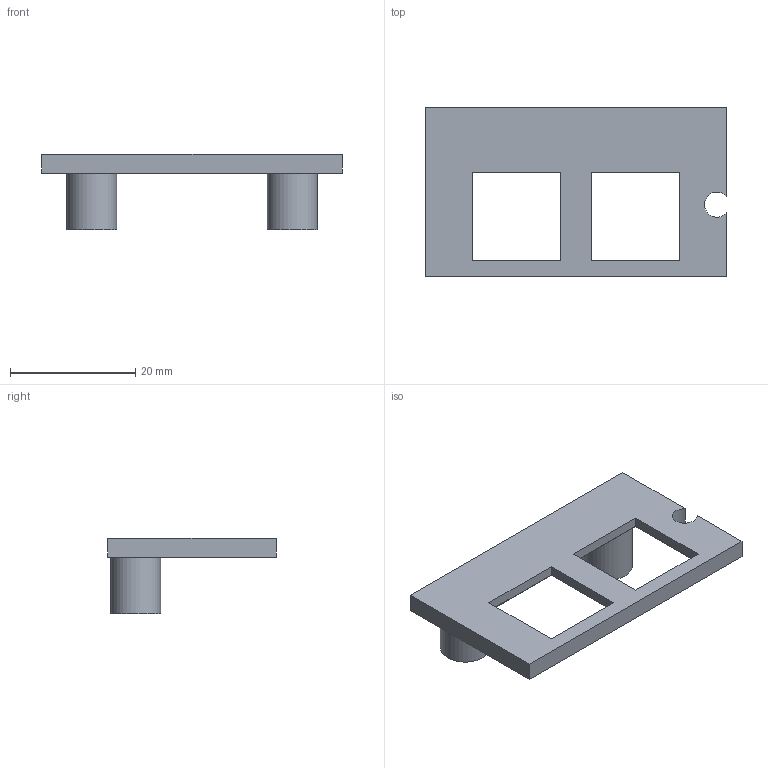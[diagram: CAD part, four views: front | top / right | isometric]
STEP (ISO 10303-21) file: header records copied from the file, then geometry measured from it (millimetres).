
FILE_DESCRIPTION(('Open CASCADE Model'),'2;1');
FILE_NAME('Open CASCADE Shape Model','2026-09-15T22:36:36',('Author'),( 'Open CASCADE'),'Open CASCADE STEP processor 7.9','Open CASCADE 7.9' ,'Unknown');
FILE_SCHEMA(('AUTOMOTIVE_DESIGN { 1 0 10303 214 1 1 1 1 }'));
Length unit declared in the file: millimetre
Products named in the file (1): Open CASCADE STEP translator 7.9 1
Bounding box: 48 x 26.95 x 12 mm (x, y, z)
Volume: 3190.5 mm3; surface area: 3202.1 mm2
Topology: 1 solids, 1 shells, 38 faces, 84 edges, 56 vertices
Faces by surface type: plane 31, cylinder 7
Full cylindrical faces by diameter (mm): 3.4 x2, 3.9 x2, 8 x2
Entity records: 2152 total; most frequent: CARTESIAN_POINT 419, DIRECTION 312, LINE 200, VECTOR 200, ORIENTED_EDGE 168, PCURVE 168, DEFINITIONAL_REPRESENTATION 168, EDGE_CURVE 84
